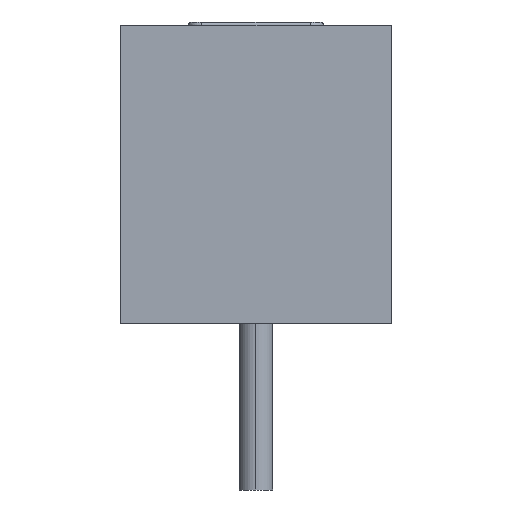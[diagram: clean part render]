
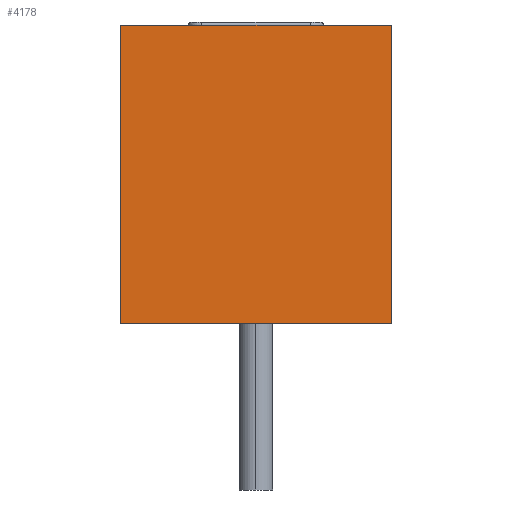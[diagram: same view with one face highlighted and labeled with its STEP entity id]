
A CAD part, left-side view. The second image highlights one B-rep face of the part: STEP entity #4178.
In plain terms, the highlighted planar face has unit normal (-1, 0, 0).
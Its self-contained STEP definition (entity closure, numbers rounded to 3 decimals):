
#74 = CARTESIAN_POINT ( 'NONE',  ( 0., 0., -44. ) ) ;
#262 = ORIENTED_EDGE ( 'NONE', *, *, #2718, .T. ) ;
#263 = CARTESIAN_POINT ( 'NONE',  ( 0., 0., 0. ) ) ;
#333 = VECTOR ( 'NONE', #766, 1000. ) ;
#454 = EDGE_CURVE ( 'NONE', #1209, #3010, #2276, .T. ) ;
#579 = EDGE_CURVE ( 'NONE', #3880, #1209, #1855, .T. ) ;
#766 = DIRECTION ( 'NONE',  ( 0., -1., 0. ) ) ;
#840 = VERTEX_POINT ( 'NONE', #1021 ) ;
#1021 = CARTESIAN_POINT ( 'NONE',  ( 0., 0., -44. ) ) ;
#1209 = VERTEX_POINT ( 'NONE', #2629 ) ;
#1402 = EDGE_CURVE ( 'NONE', #3880, #840, #3392, .T. ) ;
#1603 = DIRECTION ( 'NONE',  ( -1., 0., 0. ) ) ;
#1652 = VECTOR ( 'NONE', #3033, 1000. ) ;
#1755 = AXIS2_PLACEMENT_3D ( 'NONE', #2436, #1603, #4292 ) ;
#1828 = ORIENTED_EDGE ( 'NONE', *, *, #454, .F. ) ;
#1855 = LINE ( 'NONE', #3842, #3615 ) ;
#2115 = PLANE ( 'NONE',  #1755 ) ;
#2264 = CARTESIAN_POINT ( 'NONE',  ( 0., 40., -44. ) ) ;
#2276 = LINE ( 'NONE', #263, #1652 ) ;
#2434 = ORIENTED_EDGE ( 'NONE', *, *, #579, .F. ) ;
#2436 = CARTESIAN_POINT ( 'NONE',  ( 0., 0., -44. ) ) ;
#2609 = CARTESIAN_POINT ( 'NONE',  ( 0., 0., -44. ) ) ;
#2629 = CARTESIAN_POINT ( 'NONE',  ( 0., 40., 0. ) ) ;
#2702 = ORIENTED_EDGE ( 'NONE', *, *, #1402, .T. ) ;
#2718 = EDGE_CURVE ( 'NONE', #840, #3010, #4264, .T. ) ;
#2761 = FACE_OUTER_BOUND ( 'NONE', #3114, .T. ) ;
#2777 = CARTESIAN_POINT ( 'NONE',  ( 0., 0., 0. ) ) ;
#3010 = VERTEX_POINT ( 'NONE', #2777 ) ;
#3033 = DIRECTION ( 'NONE',  ( 0., -1., 0. ) ) ;
#3114 = EDGE_LOOP ( 'NONE', ( #1828, #2434, #2702, #262 ) ) ;
#3115 = DIRECTION ( 'NONE',  ( 0., 0., 1. ) ) ;
#3239 = DIRECTION ( 'NONE',  ( 0., 0., 1. ) ) ;
#3392 = LINE ( 'NONE', #74, #333 ) ;
#3615 = VECTOR ( 'NONE', #3115, 1000. ) ;
#3825 = VECTOR ( 'NONE', #3239, 1000. ) ;
#3842 = CARTESIAN_POINT ( 'NONE',  ( 0., 40., -44. ) ) ;
#3880 = VERTEX_POINT ( 'NONE', #2264 ) ;
#4178 = ADVANCED_FACE ( 'NONE', ( #2761 ), #2115, .T. ) ;
#4264 = LINE ( 'NONE', #2609, #3825 ) ;
#4292 = DIRECTION ( 'NONE',  ( 0., 0., 1. ) ) ;
